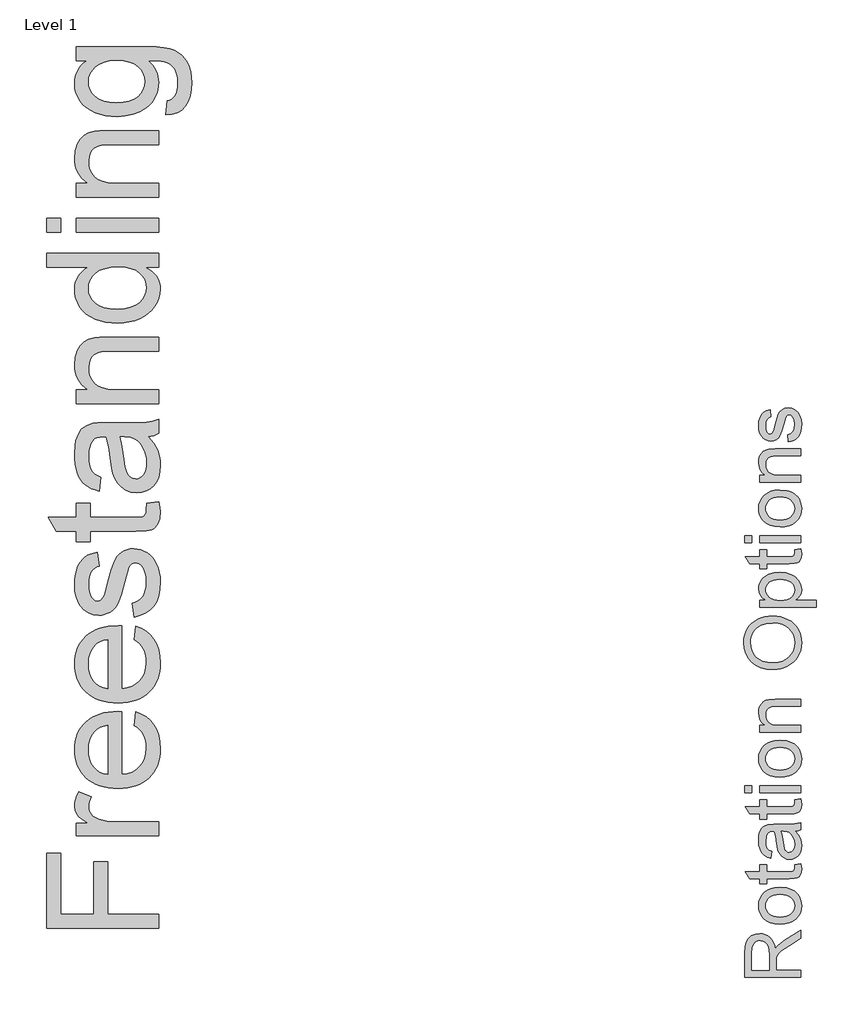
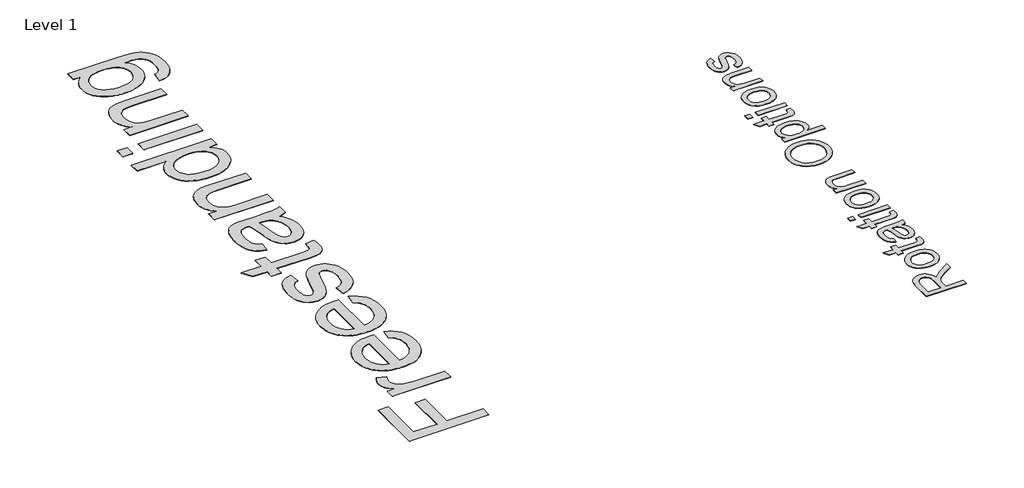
# One storey, part 33 of 47: 2 proxies.
"""IFC4 building model written with IfcOpenShell, lengths in millimetres."""

from ifc_helpers import new_model, si_unit, origin, origin_with_axes, place, context, project, spatial, polyline, outline, extrude, element, save

model = new_model("IFC4")

# Units and contexts
model_context = context("Model", 3, world=origin())
ifc_project = project(units=[si_unit("LENGTHUNIT", "METRE", prefix="MILLI")], contexts=[model_context])

# Site, building, storey
site = spatial("IfcSite", under=ifc_project)
building = spatial("IfcBuilding", under=site)
storey = spatial("IfcBuildingStorey", under=building, Name="Level 1", Elevation=0.0)

# Proxies
placement = place(None, origin())
element("IfcBuildingElementProxy", 1, Name="1000mm Arial", ObjectType="1000mm Arial", at=placement, inside=storey, context=model_context, shape_type="SweptSolid", body=[
    extrude(outline(polyline([(64082.9998219, 65405.6130925), (63078.4367204, 65405.6130925), (63078.4367204, 66080.5539263), (63204.0071081, 66080.5539263), (63204.0071081, 65531.1834802), (63502.2367789, 65531.1834802), (63502.2367789, 66002.072434), (63627.8071665, 66002.072434), (63627.8071665, 65531.1834802), (64082.9998219, 65531.1834802), (64082.9998219, 65405.6130925)])), origin_with_axes(), (0.0, 0.0, 1.0), 5.0),
    extrude(outline(polyline([(64082.9998219, 66237.516911), (63345.2737942, 66237.516911), (63345.2737942, 66347.3910002), (63454.4121195, 66347.3910002), (63391.1364163, 66387.980647), (63369.2474376, 66407.0798539), (63353.8577075, 66425.3819832), (63335.6475487, 66462.9059467), (63329.5774958, 66503.8634755), (63331.9993856, 66535.0108177), (63339.265055, 66566.4034146), (63351.374504, 66598.0412662), (63368.3277326, 66629.9243725), (63480.8996231, 66587.985825), (63461.5858184, 66543.8399856), (63456.7573672, 66521.7670659), (63455.1478835, 66499.6941462), (63456.6960535, 66480.4493193), (63461.3405637, 66462.2008395), (63469.081414, 66444.9487068), (63479.9186045, 66428.6929211), (63493.4995815, 66414.0466192), (63509.4717914, 66401.6229376), (63548.5899102, 66383.4434357), (63618.732744, 66368.1763329), (63695.252199, 66363.0872986), (64082.9998219, 66363.0872986), (64082.9998219, 66237.516911)])), origin_with_axes(), (0.0, 0.0, 1.0), 5.0),
    extrude(outline(polyline([(63863.2516435, 67224.912186), (63878.9479419, 67348.0300271), (63928.2594577, 67329.1530822), (63971.7155184, 67303.6695898), (64009.316124, 67271.5795499), (64041.0612745, 67232.8829626), (64066.2765195, 67187.9783665), (64084.2874089, 67137.2643007), (64095.0939425, 67080.7407649), (64098.6961204, 67018.4077594), (64097.1422021, 66978.3890961), (64092.4804475, 66940.4934185), (64084.7108564, 66904.7207266), (64073.8334289, 66871.0710203), (64059.8481649, 66839.5442997), (64042.7550645, 66810.1405649), (64022.5541276, 66782.8598157), (63999.2453543, 66757.7020521), (63973.1314808, 66735.1117984), (63944.5152433, 66715.5335784), (63913.3966419, 66698.9673923), (63879.7756764, 66685.4132401), (63843.652347, 66674.8711217), (63805.0266535, 66667.3410371), (63763.8985961, 66662.8229863), (63720.2681747, 66661.3169694), (63675.1528129, 66662.8383147), (63632.6356177, 66667.4023507), (63592.7165891, 66675.0090774), (63555.3957272, 66685.6584947), (63520.6730318, 66699.3506028), (63488.548503, 66716.0854014), (63459.0221407, 66735.8628908), (63432.0939451, 66758.6830708), (63408.0666523, 66783.9289727), (63387.2429985, 66810.9836278), (63369.6229838, 66839.847036), (63355.2066081, 66870.5191973), (63343.9938715, 66903.0001118), (63335.9847739, 66937.2897794), (63331.1793153, 66973.3882002), (63329.5774958, 67011.2953741), (63331.1754832, 67047.9628624), (63335.9694455, 67082.9174001), (63343.9593825, 67116.1589872), (63355.1452944, 67147.6876239), (63369.5271812, 67177.5033099), (63387.1050428, 67205.6060455), (63407.8788792, 67231.9958305), (63431.8486904, 67256.6726649), (63458.7155724, 67279.0042517), (63488.180621, 67298.3582935), (63520.2438361, 67314.7347904), (63554.9052178, 67328.1337425), (63592.1647662, 67338.5551496), (63632.0224811, 67345.9990119), (63719.5324107, 67351.9541017), (63753.3775542, 67351.2183377), (63753.3775542, 66786.8873571), (63803.4861477, 66794.1606907), (63847.371404, 66808.6230516), (63885.0333233, 66830.2744399), (63916.4719054, 66859.1148555), (63941.2579548, 66893.5501431), (63958.9622759, 66931.9861473), (63969.5848685, 66974.4228683), (63973.1257327, 67020.860306), (63971.4855921, 67055.5944977), (63966.5651704, 67087.6922018), (63958.3644676, 67117.1534183), (63946.8834837, 67143.9781471), (63931.8156503, 67168.1663883), (63912.8543991, 67189.7181418), (63889.9997302, 67208.6334077), (63863.2516435, 67224.912186)]), holes=[polyline([(63627.8071665, 66786.8873571), (63627.8071665, 67226.383714), (63592.2758972, 67219.9304507), (63561.4657801, 67209.3998285), (63535.3768153, 67194.7918477), (63514.0090027, 67176.106508), (63488.257263, 67141.8628256), (63469.8631633, 67102.8979909), (63458.8267034, 67059.212004), (63455.1478835, 67010.8048648), (63458.0832752, 66966.6513612), (63466.8894505, 66926.1613491), (63481.5664092, 66889.3348285), (63502.1141515, 66856.1717995), (63527.5823155, 66828.3430594), (63557.0205393, 66807.5194056), (63590.428823, 66793.7008382), (63627.8071665, 66786.8873571)])]), origin_with_axes(), (0.0, 0.0, 1.0), 5.0),
    extrude(outline(polyline([(63863.2516435, 67994.0308106), (63878.9479419, 68117.1486516), (63928.2594577, 68098.2717068), (63971.7155184, 68072.7882144), (64009.316124, 68040.6981745), (64041.0612745, 68002.0015872), (64066.2765195, 67957.0969911), (64084.2874089, 67906.3829252), (64095.0939425, 67849.8593895), (64098.6961204, 67787.526384), (64097.1422021, 67747.5077207), (64092.4804475, 67709.6120431), (64084.7108564, 67673.8393511), (64073.8334289, 67640.1896449), (64059.8481649, 67608.6629243), (64042.7550645, 67579.2591894), (64022.5541276, 67551.9784402), (63999.2453543, 67526.8206767), (63973.1314808, 67504.2304229), (63944.5152433, 67484.652203), (63913.3966419, 67468.0860169), (63879.7756764, 67454.5318647), (63843.652347, 67443.9897462), (63805.0266535, 67436.4596616), (63763.8985961, 67431.9416109), (63720.2681747, 67430.435594), (63675.1528129, 67431.9569393), (63632.6356177, 67436.5209753), (63592.7165891, 67444.127702), (63555.3957272, 67454.7771193), (63520.6730318, 67468.4692273), (63488.548503, 67485.204026), (63459.0221407, 67504.9815154), (63432.0939451, 67527.8016954), (63408.0666523, 67553.0475973), (63387.2429985, 67580.1022523), (63369.6229838, 67608.9656606), (63355.2066081, 67639.6378219), (63343.9938715, 67672.1187364), (63335.9847739, 67706.408404), (63331.1793153, 67742.5068248), (63329.5774958, 67780.4139987), (63331.1754832, 67817.081487), (63335.9694455, 67852.0360247), (63343.9593825, 67885.2776118), (63355.1452944, 67916.8062484), (63369.5271812, 67946.6219345), (63387.1050428, 67974.7246701), (63407.8788792, 68001.114455), (63431.8486904, 68025.7912895), (63458.7155724, 68048.1228762), (63488.180621, 68067.4769181), (63520.2438361, 68083.853415), (63554.9052178, 68097.2523671), (63592.1647662, 68107.6737742), (63632.0224811, 68115.1176365), (63719.5324107, 68121.0727263), (63753.3775542, 68120.3369623), (63753.3775542, 67556.0059817), (63803.4861477, 67563.2793153), (63847.371404, 67577.7416762), (63885.0333233, 67599.3930645), (63916.4719054, 67628.2334801), (63941.2579548, 67662.6687676), (63958.9622759, 67701.1047719), (63969.5848685, 67743.5414929), (63973.1257327, 67789.9789306), (63971.4855921, 67824.7131223), (63966.5651704, 67856.8108264), (63958.3644676, 67886.2720428), (63946.8834837, 67913.0967717), (63931.8156503, 67937.2850128), (63912.8543991, 67958.8367664), (63889.9997302, 67977.7520323), (63863.2516435, 67994.0308106)]), holes=[polyline([(63627.8071665, 67556.0059817), (63627.8071665, 67995.5023386), (63592.2758972, 67989.0490752), (63561.4657801, 67978.5184531), (63535.3768153, 67963.9104722), (63514.0090027, 67945.2251326), (63488.257263, 67910.9814502), (63469.8631633, 67872.0166155), (63458.8267034, 67828.3306286), (63455.1478835, 67779.9234894), (63458.0832752, 67735.7699858), (63466.8894505, 67695.2799737), (63481.5664092, 67658.4534531), (63502.1141515, 67625.2904241), (63527.5823155, 67597.461684), (63557.0205393, 67576.6380302), (63590.428823, 67562.8194628), (63627.8071665, 67556.0059817)])]), origin_with_axes(), (0.0, 0.0, 1.0), 5.0),
    extrude(outline(polyline([(63863.2516435, 68199.5542186), (63847.555345, 68325.1246062), (63876.188827, 68332.7121724), (63901.2661163, 68344.9289203), (63922.787213, 68361.77485), (63940.7521171, 68383.2499615), (63954.9155739, 68409.4155684), (63965.0323288, 68440.3329844), (63971.1023817, 68476.0022095), (63973.1257327, 68516.4232437), (63971.2709943, 68556.7982927), (63965.7067791, 68591.5937981), (63956.4330871, 68620.8097599), (63943.4499184, 68644.4461781), (63927.9682178, 68662.6869937), (63911.1989302, 68675.7161477), (63893.1420556, 68683.53364), (63873.797594, 68686.1394708), (63856.8443654, 68683.5183116), (63841.7918604, 68675.654834), (63828.6400791, 68662.5490379), (63817.3890214, 68644.2009234), (63801.4474683, 68597.1733417), (63781.5818405, 68514.9517158), (63748.4418041, 68400.3564743), (63720.1455473, 68325.8603702), (63705.9590979, 68300.2849074), (63689.2741166, 68278.005054), (63670.0906034, 68259.0208102), (63648.4085583, 68243.332176), (63624.879439, 68231.0464502), (63600.1547032, 68222.2709318), (63574.234351, 68217.0056207), (63547.1183823, 68215.250517), (63498.4659884, 68220.8913743), (63453.5537282, 68237.8139461), (63414.1596978, 68264.4853907), (63382.0619938, 68299.3728666), (63361.8591409, 68334.0457446), (63344.9059122, 68379.2032595), (63333.4095999, 68431.411846), (63329.5774958, 68487.2379388), (63331.1180016, 68529.4370693), (63335.7395192, 68568.9690554), (63343.4420485, 68605.833897), (63354.2255895, 68640.0315941), (63367.6379539, 68670.7497407), (63383.2269534, 68697.1759307), (63400.9925881, 68719.3101641), (63420.9348579, 68737.1524408), (63443.7512058, 68751.622466), (63470.1390748, 68763.6399445), (63500.0984648, 68773.2048764), (63533.6293758, 68780.3172616), (63549.3256742, 68654.7468739), (63528.3487363, 68648.7611273), (63509.8090166, 68638.8972913), (63493.7065151, 68625.1553659), (63480.0412318, 68607.5353512), (63469.1503919, 68585.960605), (63461.3712206, 68560.3544853), (63456.7037177, 68530.7169921), (63455.1478835, 68497.0481253), (63456.6347399, 68457.9913202), (63461.0953091, 68424.9432543), (63468.529591, 68397.9039276), (63478.9375858, 68376.8733402), (63491.3229463, 68361.1003997), (63504.6893255, 68349.8340136), (63519.0367233, 68343.0741819), (63534.3651398, 68340.8209047), (63553.6789445, 68344.5610383), (63570.9080846, 68355.7814392), (63586.2978148, 68374.9726166), (63598.6218616, 68402.6250799), (63625.3546199, 68510.7823865), (63658.1574311, 68621.7294649), (63684.4609938, 68695.0912661), (63697.2908784, 68720.9043194), (63712.7265938, 68743.7743168), (63730.7681399, 68763.7012582), (63751.4155169, 68780.6851436), (63774.6993815, 68794.2584564), (63800.6503906, 68803.9536798), (63829.2685441, 68809.7708139), (63860.5538422, 68811.7098585), (63891.9770959, 68809.4335887), (63922.4806447, 68802.6047792), (63952.0644885, 68791.2234299), (63980.7286272, 68775.289541), (64007.331094, 68755.0636955), (64030.7299218, 68730.8064764), (64050.9251105, 68702.5178838), (64067.9166601, 68670.1979177), (64081.382674, 68634.727962), (64091.0012553, 68596.9894007), (64096.7724041, 68556.9822337), (64098.6961204, 68514.7064611), (64094.9866436, 68447.1234729), (64083.8582132, 68388.0937411), (64065.3108293, 68337.6172657), (64039.3444918, 68295.6940466), (64006.0818281, 68261.4503642), (63965.6454654, 68234.0124988), (63918.0354039, 68213.3804502), (63863.2516435, 68199.5542186)])), origin_with_axes(), (0.0, 0.0, 1.0), 5.0),
    extrude(outline(polyline([(63978.2760806, 69219.8136185), (64086.6786419, 69235.509917), (64095.6917507, 69185.784534), (64098.6961204, 69141.5773809), (64093.4844588, 69081.3060473), (64086.9698818, 69056.9185367), (64077.849474, 69036.3631303), (64053.7532033, 69004.6026513), (64039.2678497, 68992.8610843), (64023.157684, 68983.8786323), (64001.5599452, 68977.2260995), (63970.6118724, 68972.4742904), (63880.6647246, 68968.6728431), (63470.8441819, 68968.6728431), (63470.8441819, 68874.4950524), (63345.2737942, 68874.4950524), (63345.2737942, 68968.6728431), (63165.9926353, 68968.6728431), (63092.1709816, 69094.2432308), (63345.2737942, 69094.2432308), (63345.2737942, 69219.8136185), (63470.8441819, 69219.8136185), (63470.8441819, 69094.2432308), (63876.9859046, 69094.2432308), (63918.3113154, 69095.8986998), (63941.7331358, 69100.8651067), (63954.7009761, 69109.5409905), (63964.6644468, 69122.3248898), (63971.0104112, 69140.4430781), (63973.1257327, 69165.1218286), (63978.2760806, 69219.8136185)])), origin_with_axes(), (0.0, 0.0, 1.0), 5.0),
    extrude(outline(polyline([(63988.8220311, 69816.27296), (64016.7657344, 69786.497511), (64040.2641968, 69756.277538), (64059.3174185, 69725.6130408), (64073.9253994, 69694.5040196), (64084.7625898, 69662.5979208), (64092.5034401, 69629.5421906), (64097.1479503, 69595.3368293), (64098.6961204, 69559.9818367), (64094.9713152, 69504.0714377), (64083.7968996, 69455.0434976), (64065.1728736, 69412.8980165), (64039.0992371, 69377.6349944), (64007.2314593, 69349.7909259), (63971.225009, 69329.9023056), (63931.0798863, 69317.9691334), (63886.7960911, 69313.9914093), (63834.7407888, 69320.0001485), (63810.5065624, 69327.5110726), (63787.4679524, 69338.0263663), (63747.000933, 69365.8321138), (63715.3630814, 69401.1794421), (63691.4507517, 69442.7194508), (63674.1602979, 69489.103239), (63664.5340524, 69534.2914107), (63655.2756888, 69597.7510549), (63635.4100611, 69726.1418712), (63624.1896603, 69775.7139701), (63612.1108681, 69815.537196), (63584.1518364, 69816.27296), (63553.7096013, 69814.1116533), (63528.1111458, 69807.6277331), (63507.35647, 69796.8211995), (63491.4455737, 69781.6920525), (63475.5653342, 69755.541774), (63464.222306, 69723.6893246), (63457.4164891, 69686.1347042), (63455.1478835, 69642.877913), (63456.6577325, 69602.6561482), (63461.1872796, 69568.0752406), (63468.7365247, 69539.1351903), (63479.3054678, 69515.8359973), (63493.7218435, 69496.6908051), (63512.8133862, 69480.2127574), (63536.5800959, 69466.4018542), (63565.0219727, 69455.2580954), (63549.3256742, 69329.6877077), (63513.1506114, 69339.2449754), (63480.6543685, 69351.484716), (63451.8369455, 69366.4069294), (63426.6983425, 69384.0116157), (63404.7327217, 69405.0575315), (63385.4342454, 69430.3034334), (63368.8029135, 69459.7493215), (63354.8387261, 69493.3951956), (63343.7869378, 69530.5589413), (63335.8928034, 69570.5584441), (63331.1563227, 69613.3937039), (63329.5774958, 69659.0647208), (63335.1570394, 69743.9534911), (63342.1314689, 69779.7989931), (63351.8956702, 69811.2452394), (63377.06493, 69861.9822979), (63391.787874, 69881.5336931), (63407.9363608, 69897.206999), (63446.1041178, 69920.5675057), (63493.1623563, 69935.7119811), (63536.5724317, 69940.3105061), (63603.0364455, 69941.8433477), (63759.2636662, 69941.8433477), (63895.3493475, 69943.437503), (63977.4176893, 69948.219969), (64031.3430584, 69957.6622735), (64082.9998219, 69973.2359446), (64082.9998219, 69847.665557), (64039.3444918, 69827.5546746), (63988.8220311, 69816.27296)]), holes=[polyline([(63737.6812558, 69816.27296), (63758.5892158, 69731.9053558), (63776.1862379, 69613.692608), (63785.8124835, 69548.546838), (63796.542375, 69505.6579288), (63810.4605771, 69477.545613), (63829.6517546, 69456.7296234), (63852.6443793, 69443.8537536), (63877.9669233, 69439.561797), (63897.4799974, 69441.8993805), (63915.3069458, 69448.912131), (63931.4477683, 69460.6000486), (63945.902465, 69476.9631331), (63957.8126446, 69497.8481006), (63966.3199158, 69523.1016667), (63971.4242785, 69552.7238315), (63973.1257327, 69586.714595), (63971.2480017, 69621.4181299), (63965.6148086, 69654.1596275), (63956.2261535, 69684.9390878), (63943.0820364, 69713.7565107), (63927.2707748, 69739.753505), (63909.8806863, 69762.0716794), (63890.911771, 69780.7110338), (63870.3640287, 69795.6715683), (63851.9699289, 69804.3627804), (63829.6517546, 69810.5707891), (63773.243182, 69815.537196), (63737.6812558, 69816.27296)])]), origin_with_axes(), (0.0, 0.0, 1.0), 5.0),
    extrude(outline(polyline([(64082.9998219, 70114.5026308), (63345.2737942, 70114.5026308), (63345.2737942, 70240.0730185), (63448.2807529, 70240.0730185), (63420.459677, 70260.7893733), (63396.3480779, 70283.6976917), (63375.9459556, 70308.7979737), (63359.2533101, 70336.0902192), (63346.2701413, 70365.5744283), (63336.9964494, 70397.2506009), (63331.4322342, 70431.1187371), (63329.5774958, 70467.1788368), (63335.5555782, 70529.0749825), (63343.0281812, 70558.0686823), (63353.4898255, 70585.7594666), (63366.3810237, 70611.097339), (63381.1422888, 70633.032303), (63397.7736206, 70651.5643585), (63416.2750193, 70666.6935055), (63458.7960466, 70689.5328461), (63508.6134001, 70704.3400964), (63556.2541185, 70709.3065033), (63630.0144585, 70710.9619723), (64082.9998219, 70710.9619723), (64082.9998219, 70585.3915846), (63646.9370303, 70585.3915846), (63582.0058581, 70581.7740783), (63535.8366677, 70570.9215595), (63518.3699372, 70562.2993252), (63502.757945, 70550.9026476), (63489.0006912, 70536.7315265), (63477.0981759, 70519.7859621), (63460.6354566, 70479.9014225), (63455.1478835, 70433.5789479), (63458.2288952, 70395.449512), (63467.4719303, 70360.0332057), (63482.8769889, 70327.3300292), (63504.4440708, 70297.3399824), (63534.6257228, 70272.2856857), (63575.8744916, 70254.3897595), (63628.190377, 70243.6522037), (63691.573379, 70240.0730185), (64082.9998219, 70240.0730185), (64082.9998219, 70114.5026308)])), origin_with_axes(), (0.0, 0.0, 1.0), 5.0),
    extrude(outline(polyline([(64082.9998219, 71338.8139107), (63964.5418195, 71338.8139107), (63995.9842337, 71321.0214513), (64023.2343261, 71301.243962), (64046.2920966, 71279.4814427), (64065.1575451, 71255.7338935), (64079.8306718, 71230.0013144), (64090.3114766, 71202.2837053), (64096.5999594, 71172.5810663), (64098.6961204, 71140.8933973), (64095.6610939, 71099.4453592), (64086.5560145, 71059.7141037), (64071.3808822, 71021.6996309), (64050.135697, 70985.4019407), (64023.4565881, 70951.955336), (63991.9796849, 70922.4941195), (63955.7049874, 70897.0182914), (63914.6324954, 70875.5278515), (63869.5439584, 70858.467324), (63821.2211255, 70846.2812329), (63769.6639967, 70838.9695782), (63714.8725721, 70836.53236), (63661.0851587, 70838.777973), (63609.8422624, 70845.514812), (63561.1438833, 70856.7428771), (63514.9900214, 70872.4621682), (63472.7295772, 70892.6650211), (63435.7114514, 70917.3437716), (63403.9356441, 70946.4984197), (63377.4021552, 70980.1289654), (63356.4788667, 71017.0474565), (63341.5336606, 71056.0659406), (63332.566537, 71097.1844178), (63329.5774958, 71140.402888), (63331.7158099, 71172.0100828), (63338.1307522, 71201.8391812), (63348.8223227, 71229.8901833), (63363.7905213, 71256.1630892), (63382.1769569, 71280.3666588), (63403.123238, 71302.2096522), (63426.6293646, 71321.6920695), (63452.6953368, 71338.8139107), (63078.4367204, 71338.8139107), (63078.4367204, 71464.3842984), (64082.9998219, 71464.3842984), (64082.9998219, 71338.8139107)]), holes=[polyline([(63714.3820627, 70962.1027477), (63775.2741971, 70965.6436119), (63827.9656288, 70976.2662045), (63872.4563575, 70993.9705255), (63908.7463835, 71018.7565749), (63936.9123488, 71048.3557471), (63957.0308954, 71080.4994365), (63969.1020234, 71115.1876429), (63973.1257327, 71152.4203665), (63969.2859644, 71189.8293669), (63957.7666594, 71224.3106397), (63938.5678178, 71255.864185), (63911.6894395, 71284.4900028), (63876.9169267, 71308.2567125), (63834.0356817, 71325.2329337), (63783.0457043, 71335.4186665), (63723.9469946, 71338.8139107), (63659.1537782, 71335.3573528), (63603.5882685, 71324.9876791), (63557.2504655, 71307.7048895), (63520.1403693, 71283.5089841), (63491.7061567, 71254.2547013), (63471.3960049, 71221.7967794), (63459.2099138, 71186.1352185), (63455.1478835, 71147.2700186), (63459.0489655, 71109.301531), (63470.7522114, 71074.6133245), (63490.2576214, 71043.2053992), (63517.5651953, 71015.077755), (63553.2727415, 70991.9011893), (63597.9780681, 70975.3464995), (63651.6811752, 70965.4136856), (63714.3820627, 70962.1027477)])]), origin_with_axes(), (0.0, 0.0, 1.0), 5.0),
    extrude(outline(polyline([(63204.0071081, 71652.73988), (63078.4367204, 71652.73988), (63078.4367204, 71778.3102676), (63204.0071081, 71778.3102676), (63204.0071081, 71652.73988)])), origin_with_axes(), (0.0, 0.0, 1.0), 5.0),
    extrude(outline(polyline([(64082.9998219, 71652.73988), (63345.2737942, 71652.73988), (63345.2737942, 71778.3102676), (64082.9998219, 71778.3102676), (64082.9998219, 71652.73988)])), origin_with_axes(), (0.0, 0.0, 1.0), 5.0),
    extrude(outline(polyline([(64082.9998219, 71966.6658492), (63345.2737942, 71966.6658492), (63345.2737942, 72092.2362369), (63448.2807529, 72092.2362369), (63420.459677, 72112.9525917), (63396.3480779, 72135.8609101), (63375.9459556, 72160.9611921), (63359.2533101, 72188.2534376), (63346.2701413, 72217.7376467), (63336.9964494, 72249.4138193), (63331.4322342, 72283.2819555), (63329.5774958, 72319.3420552), (63335.5555782, 72381.2382009), (63343.0281812, 72410.2319006), (63353.4898255, 72437.922685), (63366.3810237, 72463.2605574), (63381.1422888, 72485.1955214), (63397.7736206, 72503.7275769), (63416.2750193, 72518.8567239), (63458.7960466, 72541.6960645), (63508.6134001, 72556.5033148), (63556.2541185, 72561.4697217), (63630.0144585, 72563.1251907), (64082.9998219, 72563.1251907), (64082.9998219, 72437.554803), (63646.9370303, 72437.554803), (63582.0058581, 72433.9372967), (63535.8366677, 72423.0847779), (63518.3699372, 72414.4625436), (63502.757945, 72403.065866), (63489.0006912, 72388.8947449), (63477.0981759, 72371.9491805), (63460.6354566, 72332.0646409), (63455.1478835, 72285.7421663), (63458.2288952, 72247.6127304), (63467.4719303, 72212.1964241), (63482.8769889, 72179.4932476), (63504.4440708, 72149.5032008), (63534.6257228, 72124.4489041), (63575.8744916, 72106.5529778), (63628.190377, 72095.8154221), (63691.573379, 72092.2362369), (64082.9998219, 72092.2362369), (64082.9998219, 71966.6658492)])), origin_with_axes(), (0.0, 0.0, 1.0), 5.0),
    extrude(outline(polyline([(64145.7850157, 72704.3918768), (64161.4813142, 72829.9622645), (64182.6345289, 72835.2658966), (64200.7220604, 72843.819153), (64215.7439085, 72855.6220337), (64227.7000733, 72870.6745387), (64239.9321497, 72895.0313924), (64248.6693471, 72923.465605), (64253.9116655, 72955.9771763), (64255.659105, 72992.5661064), (64253.6817393, 73031.7761957), (64247.7496421, 73066.2651328), (64237.8628135, 73096.0329175), (64224.0212534, 73121.07955), (64206.6081723, 73141.9261964), (64186.0067806, 73159.0940229), (64162.2170782, 73172.5830294), (64135.2390652, 73182.3932159), (64081.2217256, 73189.1990328), (63988.8220311, 73190.9771291), (64030.0248146, 73149.1918658), (64059.4553742, 73102.5628229), (64069.7560701, 73077.4318842), (64077.11371, 73051.0900005), (64082.9998219, 72994.7733984), (64081.2868714, 72959.3206871), (64076.1480197, 72925.9258158), (64067.583267, 72894.5887844), (64055.5926133, 72865.3095929), (64040.1760584, 72838.0882413), (64021.3336025, 72812.9247296), (63999.0652454, 72789.8190578), (63973.3709873, 72768.771226), (63915.8281119, 72733.7381302), (63852.8283203, 72708.7144903), (63784.3716123, 72693.7003063), (63710.4579881, 72688.6955784), (63658.7475752, 72690.9411914), (63609.0758416, 72697.6780304), (63561.4427875, 72708.9060955), (63515.8484127, 72724.6253866), (63473.8102305, 72744.5983132), (63436.8457542, 72768.587285), (63404.9549838, 72796.5923019), (63378.1379191, 72828.6133639), (63356.8927339, 72864.136969), (63341.7176016, 72902.6496154), (63332.6125222, 72944.151303), (63329.5774958, 72988.6420318), (63331.2942784, 73018.6818959), (63336.4446264, 73047.3651953), (63345.0285396, 73074.6919297), (63357.0460181, 73100.6620993), (63372.4970619, 73125.275704), (63391.381671, 73148.5327439), (63413.6998453, 73170.433219), (63439.451585, 73190.9771291), (63345.2737942, 73190.9771291), (63345.2737942, 73316.5475168), (63982.2001552, 73316.5475168), (64062.0075556, 73314.4015385), (64129.2609828, 73307.9636036), (64183.960437, 73297.2337121), (64226.105918, 73282.2118639), (64260.0966815, 73262.5378414), (64290.331983, 73237.8514267), (64316.8118225, 73208.1526198), (64339.5361999, 73173.4414207), (64357.7770155, 73134.070383), (64370.8061695, 73090.3920603), (64378.6236619, 73042.4064525), (64381.2294927, 72990.1135598), (64377.5583369, 72928.5929603), (64366.5448697, 72873.2803695), (64348.189091, 72824.1757873), (64322.4910008, 72781.2792138), (64289.4199422, 72746.6293284), (64248.9452586, 72722.2648104), (64201.0669497, 72708.1856599), (64145.7850157, 72704.3918768)]), holes=[polyline([(63701.8740749, 72814.2659661), (63763.9618258, 72817.6152251), (63817.0517962, 72827.663002), (63861.1439862, 72844.409297), (63896.2383957, 72867.85411), (63923.009475, 72896.3573004), (63942.1316746, 72928.2787277), (63953.6049943, 72963.6183919), (63957.4294342, 73002.3762929), (63953.6279869, 73040.7509835), (63942.2236451, 73075.9220351), (63923.2164087, 73107.8894477), (63896.6062777, 73136.6532212), (63861.8567576, 73160.4199309), (63818.4313537, 73177.3961521), (63766.3300661, 73187.5818849), (63705.5528949, 73190.9771291), (63647.3125765, 73187.4822502), (63596.6904811, 73176.9976133), (63553.6866087, 73159.5232185), (63518.3009593, 73135.0590659), (63490.6714886, 73105.6744915), (63470.9361524, 73073.4388317), (63459.0949507, 73038.3520864), (63455.1478835, 73000.4142556), (63459.033637, 72963.1125541), (63470.6908978, 72928.7079234), (63490.1196656, 72897.2003633), (63517.3199407, 72868.589874), (63552.1690955, 72844.8231643), (63594.5445028, 72827.846943), (63644.4461626, 72817.6612103), (63701.8740749, 72814.2659661)])]), origin_with_axes(), (0.0, 0.0, 1.0), 5.0),
])
element("IfcBuildingElementProxy", 2, Name="500mm Arial", ObjectType="500mm Arial", at=placement, inside=storey, context=model_context, shape_type="SweptSolid", body=[
    extrude(outline(polyline([(69842.6220496, 64966.2932218), (69340.3404988, 64966.2932218), (69340.3404988, 65182.7304623), (69343.7280789, 65240.9018028), (69353.890819, 65283.2235606), (69372.6528007, 65314.156305), (69401.8381057, 65338.1606052), (69438.028497, 65353.5656638), (69477.8057377, 65358.7006833), (69503.6034626, 65356.5738655), (69527.285866, 65350.1934122), (69548.852948, 65339.5593232), (69568.3047085, 65324.6715987), (69585.0203467, 65305.3386335), (69598.3790616, 65281.3688222), (69608.3808534, 65252.762165), (69615.0257219, 65219.5186618), (69628.5453852, 65240.212024), (69641.8811075, 65255.2032153), (69706.5057114, 65306.093558), (69842.6220496, 65389.8480256), (69842.6220496, 65316.8847632), (69738.5114449, 65251.5243954), (69669.5948845, 65204.3128727), (69649.4993305, 65186.7618358), (69637.0373279, 65171.1421794), (69625.0811631, 65141.2824241), (69622.8738711, 65104.8621066), (69622.8738711, 65029.0784156), (69842.6220496, 65029.0784156), (69842.6220496, 64966.2932218)]), holes=[polyline([(69560.0886773, 65029.0784156), (69560.0886773, 65169.6093378), (69557.8660569, 65209.9690583), (69551.1981957, 65241.2850132), (69539.6405697, 65264.8601177), (69522.7486548, 65281.9972873), (69502.3158756, 65292.4359389), (69480.135657, 65295.9154895), (69464.0791407, 65294.2561884), (69449.5094809, 65289.2782851), (69436.4266774, 65280.9817797), (69424.8307304, 65269.3666721), (69415.3347764, 65254.1647151), (69408.5519521, 65235.1076613), (69403.1256927, 65185.4282636), (69403.1256927, 65029.0784156), (69560.0886773, 65029.0784156)])]), origin_with_axes(), (0.0, 0.0, 1.0), 5.0),
    extrude(outline(polyline([(69658.1905427, 65445.0303248), (69610.4195327, 65448.4255691), (69569.2550703, 65458.6113018), (69534.6971554, 65475.5875231), (69506.745788, 65499.3542328), (69488.8805186, 65523.2818909), (69476.1196119, 65549.6927525), (69468.4630679, 65578.5868175), (69465.9108865, 65609.964086), (69469.0187229, 65644.6024751), (69478.3422323, 65675.9222621), (69493.8814145, 65703.9234468), (69515.6362695, 65728.6060294), (69542.8710335, 65748.7514008), (69574.8499423, 65763.1409517), (69611.5729961, 65771.7746823), (69653.0401947, 65774.6525925), (69716.4691821, 65769.5635582), (69742.5044974, 65763.2022654), (69764.7536939, 65754.2964554), (69783.9716961, 65742.9572594), (69800.9134284, 65729.2958082), (69815.5788908, 65713.3121019), (69827.9680834, 65695.0061406), (69844.84467, 65654.278538), (69850.4701988, 65609.964086), (69847.3738587, 65574.8198591), (69838.0848383, 65543.2088323), (69822.6031377, 65515.1310054), (69800.9287568, 65490.5863786), (69773.4295776, 65470.6556051), (69740.4734822, 65456.4193383), (69702.0604706, 65447.8775782), (69658.1905427, 65445.0303248)]), holes=[polyline([(69658.0679153, 65507.8155187), (69688.5216467, 65509.631936), (69714.8903552, 65515.0811881), (69737.1740406, 65524.1632748), (69755.372703, 65536.8781963), (69769.5093351, 65552.3445685), (69779.6069295, 65569.6810075), (69785.6654861, 65588.8875134), (69787.685005, 65609.964086), (69785.6539898, 65630.9333597), (69779.5609442, 65650.0632235), (69769.4058683, 65667.3536772), (69755.1887621, 65682.804721), (69736.8099907, 65695.5196425), (69714.1699196, 65704.6017293), (69687.2685487, 65710.0509813), (69656.105878, 65711.8673987), (69626.6178368, 65710.039485), (69600.9389072, 65704.555744), (69579.069089, 65695.4161757), (69561.0083823, 65682.62078), (69546.8717502, 65667.1122547), (69536.7741558, 65649.8332972), (69530.7155992, 65630.7839077), (69528.6960804, 65609.964086), (69530.707935, 65588.8875134), (69536.743499, 65569.6810075), (69546.8027723, 65552.3445685), (69560.8857549, 65536.8781963), (69579.0307679, 65524.1632748), (69601.2761323, 65515.0811881), (69627.6218481, 65509.631936), (69658.0679153, 65507.8155187)])]), origin_with_axes(), (0.0, 0.0, 1.0), 5.0),
    extrude(outline(polyline([(69790.2601789, 65978.7044725), (69844.4614595, 65986.5526217), (69850.4701988, 65939.5863537), (69847.864368, 65909.4506869), (69840.0468756, 65886.9792284), (69827.9987403, 65871.0989889), (69812.7009806, 65860.7369794), (69786.4280748, 65855.0348085), (69741.4545009, 65853.1340848), (69536.5442296, 65853.1340848), (69536.5442296, 65806.0451894), (69473.7590357, 65806.0451894), (69473.7590357, 65853.1340848), (69384.1184563, 65853.1340848), (69347.2076294, 65915.9192787), (69473.7590357, 65915.9192787), (69473.7590357, 65978.7044725), (69536.5442296, 65978.7044725), (69536.5442296, 65915.9192787), (69739.6150909, 65915.9192787), (69771.9887065, 65919.2302166), (69783.454362, 65929.9601081), (69787.685005, 65951.3585775), (69790.2601789, 65978.7044725)])), origin_with_axes(), (0.0, 0.0, 1.0), 5.0),
    extrude(outline(polyline([(69795.5331542, 66276.9341433), (69821.254237, 66246.9364322), (69838.0848383, 66216.0496731), (69847.3738587, 66183.5687586), (69850.4701988, 66148.7885816), (69848.6077962, 66120.8333821), (69843.0205884, 66096.319412), (69833.7085754, 66075.2466715), (69820.6717572, 66057.6151605), (69804.7378683, 66043.6931262), (69786.7346431, 66033.748816), (69766.6620818, 66027.7822299), (69744.5201842, 66025.7933679), (69718.492533, 66028.7977375), (69694.8561148, 66037.8108464), (69674.6226051, 66051.7137201), (69658.8036793, 66069.3873843), (69646.8475145, 66090.1573886), (69638.2022876, 66113.3492827), (69628.759983, 66167.6731907), (69618.8271692, 66231.8685988), (69607.1775727, 66276.5662613), (69593.1980568, 66276.9341433), (69565.1777115, 66272.6115298), (69546.8449254, 66259.6436895), (69538.9048057, 66246.5685502), (69533.2332916, 66230.6423255), (69528.6960804, 66190.2366197), (69531.7157784, 66152.8352836), (69540.7748725, 66126.7156619), (69557.5288317, 66108.904042), (69583.633125, 66096.426711), (69575.7849757, 66033.6415171), (69541.4493229, 66044.5400212), (69514.4713099, 66060.8034711), (69493.8392613, 66083.94938), (69478.5415017, 66115.495261), (69469.0685403, 66154.0768853), (69465.9108865, 66198.3300236), (69468.7006583, 66240.7744088), (69477.0699737, 66274.420283), (69489.6546036, 66299.7888122), (69505.090319, 66317.4011627), (69524.1741975, 66329.0814161), (69547.7033168, 66336.6536538), (69602.6403614, 66339.7193371), (69680.7539717, 66339.7193371), (69789.8309833, 66342.9076477), (69816.7936678, 66347.6288), (69842.6220496, 66355.4156356), (69842.6220496, 66292.6304417), (69820.7943845, 66282.5750005), (69795.5331542, 66276.9341433)]), holes=[polyline([(69669.9627665, 66276.9341433), (69680.4167465, 66234.7503411), (69689.2152576, 66175.6439673), (69699.3933261, 66121.6266276), (69706.3524272, 66107.5704697), (69715.9480159, 66097.1624749), (69727.4443282, 66090.72454), (69740.1056002, 66088.5785617), (69758.7756115, 66093.2537287), (69774.0733711, 66107.2792298), (69784.2820965, 66130.3484966), (69787.685005, 66162.1549608), (69783.9295429, 66195.877477), (69772.6631568, 66225.6759186), (69756.0624818, 66249.8335029), (69736.304153, 66266.6334474), (69715.9480159, 66274.0830578), (69687.7437296, 66276.5662613), (69669.9627665, 66276.9341433)])]), origin_with_axes(), (0.0, 0.0, 1.0), 5.0),
    extrude(outline(polyline([(69790.2601789, 66559.4675156), (69844.4614595, 66567.3156648), (69850.4701988, 66520.3493967), (69847.864368, 66490.21373), (69840.0468756, 66467.7422714), (69827.9987403, 66451.862032), (69812.7009806, 66441.5000224), (69786.4280748, 66435.7978515), (69741.4545009, 66433.8971279), (69536.5442296, 66433.8971279), (69536.5442296, 66386.8082325), (69473.7590357, 66386.8082325), (69473.7590357, 66433.8971279), (69384.1184563, 66433.8971279), (69347.2076294, 66496.6823217), (69473.7590357, 66496.6823217), (69473.7590357, 66559.4675156), (69536.5442296, 66559.4675156), (69536.5442296, 66496.6823217), (69739.6150909, 66496.6823217), (69771.9887065, 66499.9932597), (69783.454362, 66510.7231512), (69787.685005, 66532.1216206), (69790.2601789, 66559.4675156)])), origin_with_axes(), (0.0, 0.0, 1.0), 5.0),
    extrude(outline(polyline([(69842.6220496, 66622.2527094), (69473.7590357, 66622.2527094), (69473.7590357, 66685.0379032), (69842.6220496, 66685.0379032), (69842.6220496, 66622.2527094)])), origin_with_axes(), (0.0, 0.0, 1.0), 5.0),
    extrude(outline(polyline([(69403.1256927, 66622.2527094), (69340.3404988, 66622.2527094), (69340.3404988, 66685.0379032), (69403.1256927, 66685.0379032), (69403.1256927, 66622.2527094)])), origin_with_axes(), (0.0, 0.0, 1.0), 5.0),
    extrude(outline(polyline([(69658.1905427, 66763.5193955), (69610.4195327, 66766.9146398), (69569.2550703, 66777.1003725), (69534.6971554, 66794.0765938), (69506.745788, 66817.8433035), (69488.8805186, 66841.7709616), (69476.1196119, 66868.1818232), (69468.4630679, 66897.0758882), (69465.9108865, 66928.4531567), (69469.0187229, 66963.0915458), (69478.3422323, 66994.4113328), (69493.8814145, 67022.4125175), (69515.6362695, 67047.0951002), (69542.8710335, 67067.2404715), (69574.8499423, 67081.6300225), (69611.5729961, 67090.263753), (69653.0401947, 67093.1416632), (69716.4691821, 67088.052629), (69742.5044974, 67081.6913361), (69764.7536939, 67072.7855262), (69783.9716961, 67061.4463301), (69800.9134284, 67047.7848789), (69815.5788908, 67031.8011726), (69827.9680834, 67013.4952113), (69844.84467, 66972.7676087), (69850.4701988, 66928.4531567), (69847.3738587, 66893.3089299), (69838.0848383, 66861.697903), (69822.6031377, 66833.6200761), (69800.9287568, 66809.0754493), (69773.4295776, 66789.1446758), (69740.4734822, 66774.908409), (69702.0604706, 66766.3666489), (69658.1905427, 66763.5193955)]), holes=[polyline([(69658.0679153, 66826.3045894), (69688.5216467, 66828.1210067), (69714.8903552, 66833.5702588), (69737.1740406, 66842.6523455), (69755.372703, 66855.367267), (69769.5093351, 66870.8336392), (69779.6069295, 66888.1700782), (69785.6654861, 66907.3765841), (69787.685005, 66928.4531567), (69785.6539898, 66949.4224304), (69779.5609442, 66968.5522942), (69769.4058683, 66985.842748), (69755.1887621, 67001.2937918), (69736.8099907, 67014.0087132), (69714.1699196, 67023.0908), (69687.2685487, 67028.540052), (69656.105878, 67030.3564694), (69626.6178368, 67028.5285557), (69600.9389072, 67023.0448147), (69579.069089, 67013.9052464), (69561.0083823, 67001.1098508), (69546.8717502, 66985.6013254), (69536.7741558, 66968.3223679), (69530.7155992, 66949.2729784), (69528.6960804, 66928.4531567), (69530.707935, 66907.3765841), (69536.743499, 66888.1700782), (69546.8027723, 66870.8336392), (69560.8857549, 66855.367267), (69579.0307679, 66842.6523455), (69601.2761323, 66833.5702588), (69627.6218481, 66828.1210067), (69658.0679153, 66826.3045894)])]), origin_with_axes(), (0.0, 0.0, 1.0), 5.0),
    extrude(outline(polyline([(69842.6220496, 67163.7750063), (69473.7590357, 67163.7750063), (69473.7590357, 67226.5602001), (69525.2625151, 67226.5602001), (69499.2961776, 67248.3725368), (69480.7487936, 67274.5688005), (69469.6203633, 67305.1489914), (69465.9108865, 67340.1131093), (69468.8999277, 67371.0611822), (69477.8670514, 67399.4034242), (69491.693283, 67423.0398424), (69509.2596483, 67439.8704437), (69530.5201619, 67451.2901139), (69555.4288387, 67458.6937391), (69616.1293679, 67462.0046771), (69842.6220496, 67462.0046771), (69842.6220496, 67399.2194832), (69624.5906538, 67399.2194832), (69592.1250677, 67397.4107301), (69569.0404725, 67391.9844706), (69552.5011111, 67381.9750147), (69539.6712265, 67366.416672), (69531.4398669, 67346.4744022), (69528.6960804, 67323.3131649), (69530.2365862, 67304.2484469), (69534.8581038, 67286.5402938), (69542.560633, 67270.1887055), (69553.344174, 67255.1936821), (69568.435, 67242.6665337), (69589.0593844, 67233.7185706), (69615.2173271, 67228.3497928), (69646.9088281, 67226.5602001), (69842.6220496, 67226.5602001), (69842.6220496, 67163.7750063)])), origin_with_axes(), (0.0, 0.0, 1.0), 5.0),
    extrude(outline(polyline([(69598.1031501, 67728.8417509), (69539.1883814, 67733.0264086), (69487.0334444, 67745.5803817), (69441.638339, 67766.5036701), (69403.0030653, 67795.796274), (69372.1546272, 67831.7030896), (69350.1200285, 67872.4690132), (69336.8992693, 67918.0940448), (69332.4923496, 67968.5781844), (69334.5616858, 68002.3696785), (69340.7696945, 68034.4597184), (69351.1163756, 68064.848304), (69365.6017292, 68093.5354354), (69383.7888953, 68119.7163708), (69405.2410141, 68142.5863681), (69429.9580857, 68162.1454275), (69457.9401099, 68178.393549), (69488.5509576, 68191.1621199), (69521.1544995, 68200.2825277), (69555.7507354, 68205.7547724), (69592.3396655, 68207.5788539), (69629.4114407, 68205.6589698), (69664.4751934, 68199.8993173), (69697.5309235, 68190.2998965), (69728.5786311, 68176.8607073), (69756.7982458, 68159.8998145), (69781.3696974, 68139.7352827), (69802.2929859, 68116.3671118), (69819.5681112, 68089.7953018), (69833.0877745, 68061.0660173), (69842.7446769, 68031.2254225), (69848.5388183, 68000.2735176), (69850.4701988, 67968.2103024), (69848.3357168, 67933.8286643), (69841.9322708, 67901.317093), (69831.2598609, 67870.6755884), (69816.3184869, 67841.9041507), (69797.6867967, 67815.7538722), (69775.9434379, 67792.9758454), (69751.0884106, 67773.5700701), (69723.1217148, 67757.5365465), (69693.1661569, 67744.9825734), (69662.3445435, 67736.0154498), (69630.6568746, 67730.6351756), (69598.1031501, 67728.8417509)]), holes=[polyline([(69598.7162868, 67791.6269447), (69640.3406017, 67794.765438), (69677.2897496, 67804.1809178), (69709.5637304, 67819.8733842), (69737.1625443, 67841.8428371), (69759.2661208, 67868.5487707), (69775.0543898, 67898.4506791), (69784.5273512, 67931.5485623), (69787.685005, 67967.8424204), (69784.4966943, 68004.7570794), (69774.9317625, 68038.2458372), (69758.9902093, 68068.308694), (69736.672035, 68094.9456498), (69708.4907413, 68116.7541543), (69674.9598303, 68132.3316575), (69636.0793019, 68141.6781595), (69591.8491562, 68144.7936601), (69536.2683181, 68139.4593712), (69488.2290609, 68123.4565044), (69467.3402613, 68111.5578211), (69448.9423295, 68097.198927), (69433.0352653, 68080.379822), (69419.6190688, 68061.1005062), (69408.9696514, 68039.9587878), (69401.3629248, 68017.552475), (69396.7988888, 67993.8815679), (69395.2775434, 67968.9460664), (69398.2091031, 67933.9129706), (69407.003782, 67901.4090635), (69421.6615803, 67871.4343451), (69442.1824978, 67843.9888154), (69469.5552175, 67821.080497), (69504.7684223, 67804.7174124), (69547.822112, 67794.8995616), (69598.7162868, 67791.6269447)])]), origin_with_axes(), (0.0, 0.0, 1.0), 5.0),
    extrude(outline(polyline([(69983.8887357, 68286.0603462), (69473.7590357, 68286.0603462), (69473.7590357, 68348.8455401), (69535.3179563, 68348.8455401), (69504.9523632, 68369.3243045), (69483.262654, 68392.2556155), (69470.2488284, 68418.9883738), (69465.9108865, 68450.8714801), (69467.4283997, 68472.768123), (69471.9809394, 68493.3311937), (69479.5685056, 68512.5606922), (69490.1910982, 68530.4566184), (69503.5728058, 68546.6280977), (69519.4377168, 68560.6842556), (69558.6171493, 68582.450607), (69604.8783102, 68595.6023884), (69655.370114, 68599.9863155), (69709.0655569, 68595.0352369), (69757.0894857, 68580.1820014), (69778.3653277, 68569.16087), (69797.0046822, 68555.9017897), (69813.007549, 68540.4047607), (69826.3739281, 68522.6697828), (69844.4461311, 68483.9655312), (69850.4701988, 68443.2685855), (69846.4388253, 68414.4051773), (69834.3447047, 68388.6381092), (69816.0885607, 68366.5805179), (69793.5711169, 68348.8455401), (69983.8887357, 68348.8455401), (69983.8887357, 68286.0603462)]), holes=[polyline([(69661.1335986, 68348.8455401), (69691.3918927, 68350.5431622), (69717.4195439, 68355.6360286), (69739.2165521, 68364.1241392), (69756.7829174, 68376.0074941), (69770.3025807, 68390.3127387), (69779.9594831, 68406.0665188), (69785.7536245, 68423.2688341), (69787.685005, 68441.9196849), (69785.6846466, 68460.8387829), (69779.6835716, 68478.3553308), (69769.6817798, 68494.4693286), (69755.6792714, 68509.1807763), (69737.4767768, 68521.4396774), (69714.8750267, 68530.1960353), (69687.8740211, 68535.44985), (69656.47376, 68537.2011216), (69626.476049, 68535.4920032), (69600.4943831, 68530.3646479), (69578.5287623, 68521.8190557), (69560.5791866, 68509.8552266), (69546.6303276, 68495.515493), (69536.6668569, 68479.8421872), (69530.6887745, 68462.8353091), (69528.6960804, 68444.4948588), (69530.8152339, 68426.2118901), (69537.1726947, 68409.0095747), (69547.7684625, 68392.8879127), (69562.6025376, 68377.846904), (69581.4756504, 68365.1588073), (69604.1885314, 68356.0958811), (69630.7411809, 68350.6581253), (69661.1335986, 68348.8455401)])]), origin_with_axes(), (0.0, 0.0, 1.0), 5.0),
    extrude(outline(polyline([(69790.2601789, 68804.0381955), (69844.4614595, 68811.8863447), (69850.4701988, 68764.9200766), (69847.864368, 68734.7844099), (69840.0468756, 68712.3129513), (69827.9987403, 68696.4327119), (69812.7009806, 68686.0707023), (69786.4280748, 68680.3685314), (69741.4545009, 68678.4678078), (69536.5442296, 68678.4678078), (69536.5442296, 68631.3789124), (69473.7590357, 68631.3789124), (69473.7590357, 68678.4678078), (69384.1184563, 68678.4678078), (69347.2076294, 68741.2530016), (69473.7590357, 68741.2530016), (69473.7590357, 68804.0381955), (69536.5442296, 68804.0381955), (69536.5442296, 68741.2530016), (69739.6150909, 68741.2530016), (69771.9887065, 68744.5639396), (69783.454362, 68755.2938311), (69787.685005, 68776.6923005), (69790.2601789, 68804.0381955)])), origin_with_axes(), (0.0, 0.0, 1.0), 5.0),
    extrude(outline(polyline([(69403.1256927, 68866.8233893), (69340.3404988, 68866.8233893), (69340.3404988, 68929.6085831), (69403.1256927, 68929.6085831), (69403.1256927, 68866.8233893)])), origin_with_axes(), (0.0, 0.0, 1.0), 5.0),
    extrude(outline(polyline([(69842.6220496, 68866.8233893), (69473.7590357, 68866.8233893), (69473.7590357, 68929.6085831), (69842.6220496, 68929.6085831), (69842.6220496, 68866.8233893)])), origin_with_axes(), (0.0, 0.0, 1.0), 5.0),
    extrude(outline(polyline([(69658.1905427, 69008.0900754), (69610.4195327, 69011.4853197), (69569.2550703, 69021.6710524), (69534.6971554, 69038.6472737), (69506.745788, 69062.4139834), (69488.8805186, 69086.3416415), (69476.1196119, 69112.7525031), (69468.4630679, 69141.6465681), (69465.9108865, 69173.0238366), (69469.0187229, 69207.6622257), (69478.3422323, 69238.9820127), (69493.8814145, 69266.9831975), (69515.6362695, 69291.6657801), (69542.8710335, 69311.8111514), (69574.8499423, 69326.2007024), (69611.5729961, 69334.8344329), (69653.0401947, 69337.7123431), (69716.4691821, 69332.6233089), (69742.5044974, 69326.262016), (69764.7536939, 69317.3562061), (69783.9716961, 69306.01701), (69800.9134284, 69292.3555588), (69815.5788908, 69276.3718525), (69827.9680834, 69258.0658912), (69844.84467, 69217.3382886), (69850.4701988, 69173.0238366), (69847.3738587, 69137.8796098), (69838.0848383, 69106.2685829), (69822.6031377, 69078.1907561), (69800.9287568, 69053.6461292), (69773.4295776, 69033.7153557), (69740.4734822, 69019.4790889), (69702.0604706, 69010.9373288), (69658.1905427, 69008.0900754)]), holes=[polyline([(69658.0679153, 69070.8752693), (69688.5216467, 69072.6916866), (69714.8903552, 69078.1409387), (69737.1740406, 69087.2230255), (69755.372703, 69099.9379469), (69769.5093351, 69115.4043191), (69779.6069295, 69132.7407581), (69785.6654861, 69151.947264), (69787.685005, 69173.0238366), (69785.6539898, 69193.9931103), (69779.5609442, 69213.1229741), (69769.4058683, 69230.4134279), (69755.1887621, 69245.8644717), (69736.8099907, 69258.5793931), (69714.1699196, 69267.6614799), (69687.2685487, 69273.1107319), (69656.105878, 69274.9271493), (69626.6178368, 69273.0992356), (69600.9389072, 69267.6154946), (69579.069089, 69258.4759263), (69561.0083823, 69245.6805307), (69546.8717502, 69230.1720053), (69536.7741558, 69212.8930478), (69530.7155992, 69193.8436583), (69528.6960804, 69173.0238366), (69530.707935, 69151.947264), (69536.743499, 69132.7407581), (69546.8027723, 69115.4043191), (69560.8857549, 69099.9379469), (69579.0307679, 69087.2230255), (69601.2761323, 69078.1409387), (69627.6218481, 69072.6916866), (69658.0679153, 69070.8752693)])]), origin_with_axes(), (0.0, 0.0, 1.0), 5.0),
    extrude(outline(polyline([(69842.6220496, 69408.3456862), (69473.7590357, 69408.3456862), (69473.7590357, 69471.13088), (69525.2625151, 69471.13088), (69499.2961776, 69492.9432167), (69480.7487936, 69519.1394804), (69469.6203633, 69549.7196713), (69465.9108865, 69584.6837892), (69468.8999277, 69615.6318621), (69477.8670514, 69643.9741041), (69491.693283, 69667.6105223), (69509.2596483, 69684.4411236), (69530.5201619, 69695.8607938), (69555.4288387, 69703.264419), (69616.1293679, 69706.575357), (69842.6220496, 69706.575357), (69842.6220496, 69643.7901631), (69624.5906538, 69643.7901631), (69592.1250677, 69641.98141), (69569.0404725, 69636.5551505), (69552.5011111, 69626.5456946), (69539.6712265, 69610.9873519), (69531.4398669, 69591.0450821), (69528.6960804, 69567.8838448), (69530.2365862, 69548.8191268), (69534.8581038, 69531.1109737), (69542.560633, 69514.7593854), (69553.344174, 69499.764362), (69568.435, 69487.2372136), (69589.0593844, 69478.2892505), (69615.2173271, 69472.9204727), (69646.9088281, 69471.13088), (69842.6220496, 69471.13088), (69842.6220496, 69408.3456862)])), origin_with_axes(), (0.0, 0.0, 1.0), 5.0),
    extrude(outline(polyline([(69732.7479603, 69769.3605508), (69724.8998111, 69832.1457446), (69751.7551968, 69842.0479017), (69771.4981972, 69861.2084223), (69783.638303, 69889.7499337), (69787.685005, 69927.7950634), (69783.9755282, 69965.3803406), (69772.8470978, 69991.8065306), (69756.7216037, 70007.4415153), (69738.0209356, 70012.6531769), (69722.0180688, 70007.4108585), (69709.8166493, 69991.6839032), (69691.9130589, 69927.0592994), (69675.3430407, 69869.7616787), (69661.1949123, 69832.5136266), (69645.7591969, 69808.5859685), (69625.3264178, 69791.2495295), (69601.1994902, 69780.7189074), (69574.6813298, 69777.2087), (69550.3551328, 69780.0291287), (69527.8990027, 69788.4904146), (69508.2019875, 69801.8261369), (69492.1531355, 69819.2698748), (69482.051709, 69836.6063138), (69473.5750947, 69859.1850713), (69467.8269386, 69885.2893645), (69465.9108865, 69913.2024109), (69468.9918982, 69954.0679692), (69478.2349333, 69989.5992386), (69492.7356153, 70018.1714069), (69511.5895676, 70038.1596619), (69536.191676, 70051.4034138), (69567.9368265, 70059.7420723), (69575.7849757, 69996.9568785), (69556.0266469, 69989.0320872), (69541.1427545, 69973.3511171), (69531.8077489, 69949.7606842), (69528.6960804, 69918.1075042), (69531.6697931, 69882.0550687), (69540.5909315, 69858.0201116), (69553.4668014, 69844.5004483), (69568.3047085, 69839.9938939), (69577.9616109, 69841.8639607), (69586.5761809, 69847.4741611), (69594.271046, 69857.0697498), (69600.4330694, 69870.8959815), (69613.7994486, 69924.9746348), (69643.3526355, 70017.1290746), (69657.4854355, 70041.4705999), (69676.8298971, 70059.9260133), (69701.4473339, 70071.5602814), (69731.3990597, 70075.4383708), (69762.362461, 70070.8858311), (69791.4864522, 70057.228212), (69816.4870995, 70034.9866797), (69835.0804687, 70004.6824004), (69846.6227663, 69968.0781419), (69850.4701988, 69926.9366721), (69848.6154604, 69893.145178), (69843.0512452, 69863.6303121), (69833.7775533, 69838.3920744), (69820.7943845, 69817.4304648), (69804.1630527, 69800.3086236), (69783.9448713, 69786.5896909), (69760.1398406, 69776.2736666), (69732.7479603, 69769.3605508)])), origin_with_axes(), (0.0, 0.0, 1.0), 5.0),
])

save(model, "model.ifc")
